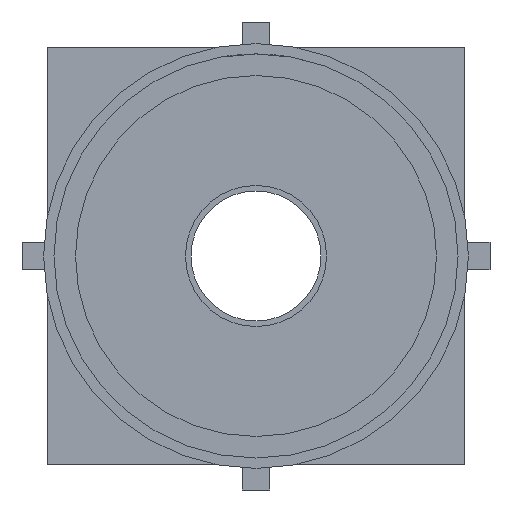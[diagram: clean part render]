
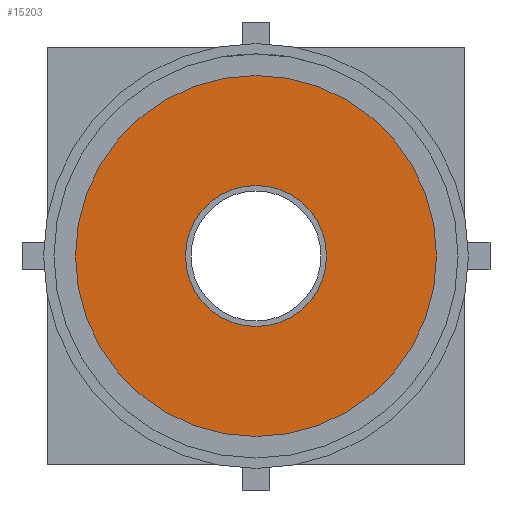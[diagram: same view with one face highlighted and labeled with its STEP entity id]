
A CAD part, front view. The second image highlights one B-rep face of the part: STEP entity #15203.
In plain terms, the highlighted planar face has unit normal (0, -1, 0).
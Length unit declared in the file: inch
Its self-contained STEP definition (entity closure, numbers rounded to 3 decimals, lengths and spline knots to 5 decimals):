
#15169=CARTESIAN_POINT('',(5.11811,2.99213,0.0));
#15170=VERTEX_POINT('',#15169);
#15171=CARTESIAN_POINT('',(0.0,2.99213,0.0));
#15172=DIRECTION('',(0.0,-1.0,0.0));
#15173=DIRECTION('',(1.0,0.0,0.0));
#15174=AXIS2_PLACEMENT_3D('',#15171,#15172,#15173);
#15175=CIRCLE('',#15174,5.11811);
#15176=EDGE_CURVE('',#15170,#15170,#15175,.T.);
#15184=CARTESIAN_POINT('',(3.55906,2.99213,0.0));
#15185=DIRECTION('',(0.0,-1.0,0.0));
#15186=DIRECTION('',(0.0,0.0,-1.0));
#15187=AXIS2_PLACEMENT_3D('',#15184,#15185,#15186);
#15188=PLANE('',#15187);
#15189=ORIENTED_EDGE('',*,*,#15176,.T.);
#15190=EDGE_LOOP('',(#15189));
#15191=FACE_OUTER_BOUND('',#15190,.T.);
#15192=CARTESIAN_POINT('',(2.,2.99213,0.0));
#15193=VERTEX_POINT('',#15192);
#15194=CARTESIAN_POINT('',(0.0,2.99213,0.0));
#15195=DIRECTION('',(0.0,-1.0,0.0));
#15196=DIRECTION('',(1.0,0.0,0.0));
#15197=AXIS2_PLACEMENT_3D('',#15194,#15195,#15196);
#15198=CIRCLE('',#15197,2.);
#15199=EDGE_CURVE('',#15193,#15193,#15198,.T.);
#15200=ORIENTED_EDGE('',*,*,#15199,.F.);
#15201=EDGE_LOOP('',(#15200));
#15202=FACE_BOUND('',#15201,.T.);
#15203=ADVANCED_FACE('',(#15191,#15202),#15188,.T.);
